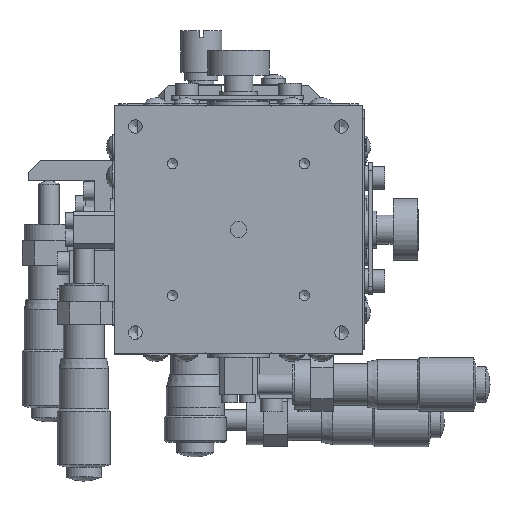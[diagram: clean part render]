
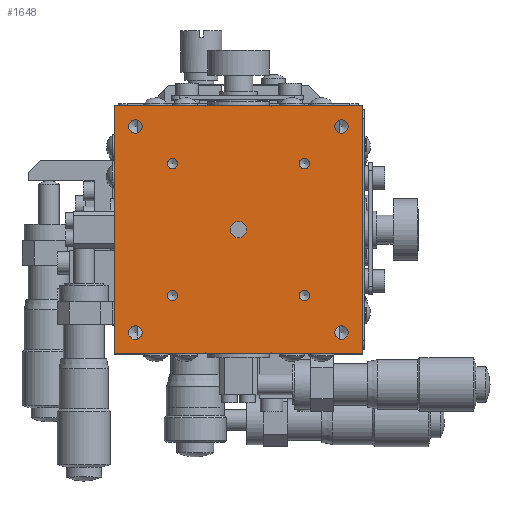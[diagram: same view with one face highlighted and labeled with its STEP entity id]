
A CAD part, top view. The second image highlights one B-rep face of the part: STEP entity #1648.
In plain terms, the highlighted planar face has unit normal (0, 0, 1).
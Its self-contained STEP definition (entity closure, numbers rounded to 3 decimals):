
#1648 = ADVANCED_FACE( '', ( #4126, #4127, #4128, #4129, #4130, #4131, #4132, #4133, #4134, #4135 ), #4136, .T. );
#4126 = FACE_BOUND( '', #6876, .T. );
#4127 = FACE_BOUND( '', #6877, .T. );
#4128 = FACE_BOUND( '', #6878, .T. );
#4129 = FACE_BOUND( '', #6879, .T. );
#4130 = FACE_BOUND( '', #6880, .T. );
#4131 = FACE_BOUND( '', #6881, .T. );
#4132 = FACE_BOUND( '', #6882, .T. );
#4133 = FACE_BOUND( '', #6883, .T. );
#4134 = FACE_BOUND( '', #6884, .T. );
#4135 = FACE_OUTER_BOUND( '', #6885, .T. );
#4136 = PLANE( '', #6886 );
#6876 = EDGE_LOOP( '', ( #13624 ) );
#6877 = EDGE_LOOP( '', ( #13625 ) );
#6878 = EDGE_LOOP( '', ( #13626 ) );
#6879 = EDGE_LOOP( '', ( #13627 ) );
#6880 = EDGE_LOOP( '', ( #13628 ) );
#6881 = EDGE_LOOP( '', ( #13629 ) );
#6882 = EDGE_LOOP( '', ( #13630 ) );
#6883 = EDGE_LOOP( '', ( #13631 ) );
#6884 = EDGE_LOOP( '', ( #13632 ) );
#6885 = EDGE_LOOP( '', ( #13633, #13634, #13635, #13636 ) );
#6886 = AXIS2_PLACEMENT_3D( '', #13637, #13638, #13639 );
#13624 = ORIENTED_EDGE( '', *, *, #16464, .T. );
#13625 = ORIENTED_EDGE( '', *, *, #16465, .T. );
#13626 = ORIENTED_EDGE( '', *, *, #16466, .T. );
#13627 = ORIENTED_EDGE( '', *, *, #16467, .T. );
#13628 = ORIENTED_EDGE( '', *, *, #16468, .T. );
#13629 = ORIENTED_EDGE( '', *, *, #16469, .T. );
#13630 = ORIENTED_EDGE( '', *, *, #16470, .T. );
#13631 = ORIENTED_EDGE( '', *, *, #16471, .T. );
#13632 = ORIENTED_EDGE( '', *, *, #16472, .T. );
#13633 = ORIENTED_EDGE( '', *, *, #16473, .F. );
#13634 = ORIENTED_EDGE( '', *, *, #16474, .F. );
#13635 = ORIENTED_EDGE( '', *, *, #16475, .F. );
#13636 = ORIENTED_EDGE( '', *, *, #16476, .F. );
#13637 = CARTESIAN_POINT( '', ( 0., 0., 112. ) );
#13638 = DIRECTION( '', ( 0., 0., 1. ) );
#13639 = DIRECTION( '', ( -1., 0., 0. ) );
#16464 = EDGE_CURVE( '', #19899, #19899, #19900, .T. );
#16465 = EDGE_CURVE( '', #19901, #19901, #19902, .T. );
#16466 = EDGE_CURVE( '', #19903, #19903, #19904, .T. );
#16467 = EDGE_CURVE( '', #19905, #19905, #19906, .T. );
#16468 = EDGE_CURVE( '', #19907, #19907, #19908, .T. );
#16469 = EDGE_CURVE( '', #19909, #19909, #19910, .T. );
#16470 = EDGE_CURVE( '', #19911, #19911, #19912, .T. );
#16471 = EDGE_CURVE( '', #19913, #19913, #19914, .T. );
#16472 = EDGE_CURVE( '', #19915, #19915, #19916, .T. );
#16473 = EDGE_CURVE( '', #19917, #19918, #19919, .T. );
#16474 = EDGE_CURVE( '', #19920, #19917, #19921, .T. );
#16475 = EDGE_CURVE( '', #19922, #19920, #19923, .T. );
#16476 = EDGE_CURVE( '', #19918, #19922, #19924, .T. );
#19899 = VERTEX_POINT( '', #25466 );
#19900 = CIRCLE( '', #25467, 1.25 );
#19901 = VERTEX_POINT( '', #25468 );
#19902 = CIRCLE( '', #25469, 1.25 );
#19903 = VERTEX_POINT( '', #25470 );
#19904 = CIRCLE( '', #25471, 1.25 );
#19905 = VERTEX_POINT( '', #25472 );
#19906 = CIRCLE( '', #25473, 1.25 );
#19907 = VERTEX_POINT( '', #25474 );
#19908 = CIRCLE( '', #25475, 2. );
#19909 = VERTEX_POINT( '', #25476 );
#19910 = CIRCLE( '', #25477, 1.65 );
#19911 = VERTEX_POINT( '', #25478 );
#19912 = CIRCLE( '', #25479, 1.65 );
#19913 = VERTEX_POINT( '', #25480 );
#19914 = CIRCLE( '', #25481, 1.65 );
#19915 = VERTEX_POINT( '', #25482 );
#19916 = CIRCLE( '', #25483, 1.65 );
#19917 = VERTEX_POINT( '', #25484 );
#19918 = VERTEX_POINT( '', #25485 );
#19919 = LINE( '', #25486, #25487 );
#19920 = VERTEX_POINT( '', #25488 );
#19921 = LINE( '', #25489, #25490 );
#19922 = VERTEX_POINT( '', #25491 );
#19923 = LINE( '', #25492, #25493 );
#19924 = LINE( '', #25494, #25495 );
#25466 = CARTESIAN_POINT( '', ( 14.75, 16., 112. ) );
#25467 = AXIS2_PLACEMENT_3D( '', #29364, #29365, #29366 );
#25468 = CARTESIAN_POINT( '', ( 14.75, -16., 112. ) );
#25469 = AXIS2_PLACEMENT_3D( '', #29367, #29368, #29369 );
#25470 = CARTESIAN_POINT( '', ( -17.25, -16., 112. ) );
#25471 = AXIS2_PLACEMENT_3D( '', #29370, #29371, #29372 );
#25472 = CARTESIAN_POINT( '', ( -17.25, 16., 112. ) );
#25473 = AXIS2_PLACEMENT_3D( '', #29373, #29374, #29375 );
#25474 = CARTESIAN_POINT( '', ( -2., 0., 112. ) );
#25475 = AXIS2_PLACEMENT_3D( '', #29376, #29377, #29378 );
#25476 = CARTESIAN_POINT( '', ( 23.35, 25., 112. ) );
#25477 = AXIS2_PLACEMENT_3D( '', #29379, #29380, #29381 );
#25478 = CARTESIAN_POINT( '', ( 23.35, -25., 112. ) );
#25479 = AXIS2_PLACEMENT_3D( '', #29382, #29383, #29384 );
#25480 = CARTESIAN_POINT( '', ( -26.65, -25., 112. ) );
#25481 = AXIS2_PLACEMENT_3D( '', #29385, #29386, #29387 );
#25482 = CARTESIAN_POINT( '', ( -26.65, 25., 112. ) );
#25483 = AXIS2_PLACEMENT_3D( '', #29388, #29389, #29390 );
#25484 = CARTESIAN_POINT( '', ( -30., 30., 112. ) );
#25485 = CARTESIAN_POINT( '', ( 30., 30., 112. ) );
#25486 = CARTESIAN_POINT( '', ( 0., 30., 112. ) );
#25487 = VECTOR( '', #29391, 1000. );
#25488 = CARTESIAN_POINT( '', ( -30., -30., 112. ) );
#25489 = CARTESIAN_POINT( '', ( -30., 0., 112. ) );
#25490 = VECTOR( '', #29392, 1000. );
#25491 = CARTESIAN_POINT( '', ( 30., -30., 112. ) );
#25492 = CARTESIAN_POINT( '', ( 0., -30., 112. ) );
#25493 = VECTOR( '', #29393, 1000. );
#25494 = CARTESIAN_POINT( '', ( 30., 0., 112. ) );
#25495 = VECTOR( '', #29394, 1000. );
#29364 = CARTESIAN_POINT( '', ( 16., 16., 112. ) );
#29365 = DIRECTION( '', ( 0., 0., -1. ) );
#29366 = DIRECTION( '', ( -1., 0., 0. ) );
#29367 = CARTESIAN_POINT( '', ( 16., -16., 112. ) );
#29368 = DIRECTION( '', ( 0., 0., -1. ) );
#29369 = DIRECTION( '', ( -1., 0., 0. ) );
#29370 = CARTESIAN_POINT( '', ( -16., -16., 112. ) );
#29371 = DIRECTION( '', ( 0., 0., -1. ) );
#29372 = DIRECTION( '', ( -1., 0., 0. ) );
#29373 = CARTESIAN_POINT( '', ( -16., 16., 112. ) );
#29374 = DIRECTION( '', ( 0., 0., -1. ) );
#29375 = DIRECTION( '', ( -1., 0., 0. ) );
#29376 = CARTESIAN_POINT( '', ( 0., 0., 112. ) );
#29377 = DIRECTION( '', ( 0., 0., -1. ) );
#29378 = DIRECTION( '', ( -1., 0., 0. ) );
#29379 = CARTESIAN_POINT( '', ( 25., 25., 112. ) );
#29380 = DIRECTION( '', ( 0., 0., -1. ) );
#29381 = DIRECTION( '', ( -1., 0., 0. ) );
#29382 = CARTESIAN_POINT( '', ( 25., -25., 112. ) );
#29383 = DIRECTION( '', ( 0., 0., -1. ) );
#29384 = DIRECTION( '', ( -1., 0., 0. ) );
#29385 = CARTESIAN_POINT( '', ( -25., -25., 112. ) );
#29386 = DIRECTION( '', ( 0., 0., -1. ) );
#29387 = DIRECTION( '', ( -1., 0., 0. ) );
#29388 = CARTESIAN_POINT( '', ( -25., 25., 112. ) );
#29389 = DIRECTION( '', ( 0., 0., -1. ) );
#29390 = DIRECTION( '', ( -1., 0., 0. ) );
#29391 = DIRECTION( '', ( 1., 0., 0. ) );
#29392 = DIRECTION( '', ( 0., 1., 0. ) );
#29393 = DIRECTION( '', ( -1., 0., 0. ) );
#29394 = DIRECTION( '', ( 0., -1., 0. ) );
